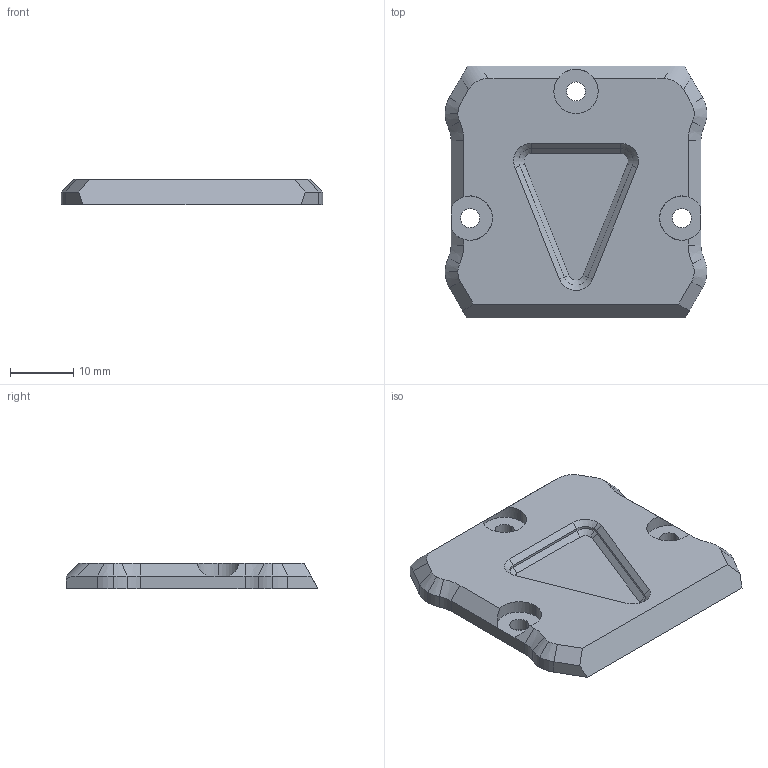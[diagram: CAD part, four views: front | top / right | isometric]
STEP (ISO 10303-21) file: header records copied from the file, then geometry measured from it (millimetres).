
FILE_DESCRIPTION (( 'STEP AP214' ), '1' );
FILE_NAME ('青漤栝 徉祜屦.STEP', '2019-03-21T14:02:40', ( '' ), ( '' ), 'SwSTEP 2.0', 'SolidWorks 2018', '' );
FILE_SCHEMA (( 'AUTOMOTIVE_DESIGN' ));
Length unit declared in the file: millimetre
Products named in the file (1): ч僾鴇 摳斀歑
Bounding box: 41.3 x 39.75 x 4 mm (x, y, z)
Volume: 5131 mm3; surface area: 3693.8 mm2
Topology: 1 solids, 1 shells, 77 faces, 192 edges, 118 vertices
Faces by surface type: plane 32, cylinder 27, cone 18
Entity records: 2323 total; most frequent: CARTESIAN_POINT 421, DIRECTION 408, ORIENTED_EDGE 384, EDGE_CURVE 192, AXIS2_PLACEMENT_3D 149, VERTEX_POINT 118, VECTOR 110, LINE 110
